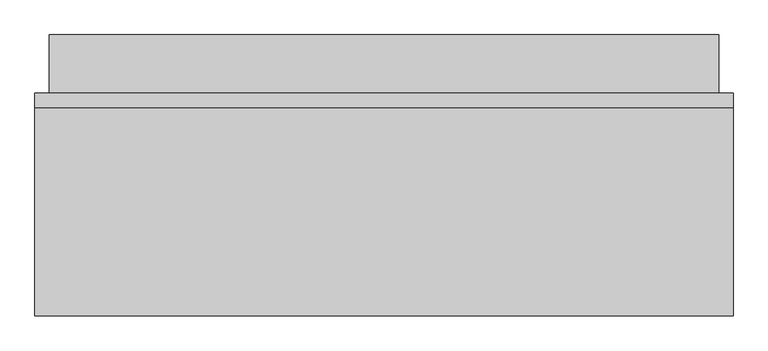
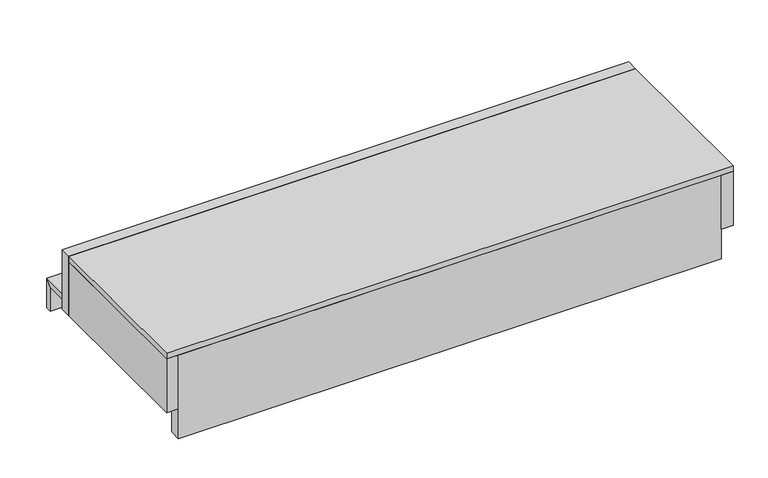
"""IFC4 building model written with IfcOpenShell, lengths in millimetres: proxy geometry, FOUNDATION^OPEN OFFICE 2_12x29x72 WIRE WALL RT-PARTS SOLID."""

from ifc_helpers import new_model, si_unit, frame, origin, origin_with_axes, place, context, project, spatial, polyline, outline, extrude, source, transform, mapped, element, save


def generic_models_7a6f5145(model_context):
    return source(origin(), model_context, "Body", "SweptSolid", [
        extrude(outline(polyline([(5143.5, 546.1), (3314.7, 546.1), (3314.7, 584.2), (5143.5, 584.2), (5143.5, 546.1)])), frame((0.0, 0.0, 101.6), z_axis=(0.0, 0.0, 1.0), x_axis=(1.0, 0.0, 0.0)), (0.0, 0.0, 1.0), 203.2),
        extrude(outline(polyline([(736.6, 101.6), (717.55, 82.55), (546.1, 82.55), (546.1, 101.6), (736.6, 101.6)])), frame((3352.8, 0.0, 0.0), z_axis=(1.0, 0.0, 0.0), x_axis=(0.0, 1.0, 0.0)), (0.0, 0.0, 1.0), 1752.6),
        extrude(outline(polyline([(5105.4, 0.0), (5105.4, 546.1), (5143.5, 546.1), (5143.5, 0.0), (5105.4, 0.0)])), frame((0.0, 0.0, 101.6), z_axis=(0.0, 0.0, 1.0), x_axis=(1.0, 0.0, 0.0)), (0.0, 0.0, 1.0), 184.15),
        extrude(outline(polyline([(5143.5, 0.0), (3314.7, 0.0), (3314.7, 546.1), (5143.5, 546.1), (5143.5, 0.0)])), frame((0.0, 0.0, 285.75), z_axis=(0.0, 0.0, 1.0), x_axis=(1.0, 0.0, 0.0)), (0.0, 0.0, 1.0), 19.05),
        extrude(outline(polyline([(717.55, 82.55), (736.6, 101.6), (736.6, 0.0), (717.55, 0.0), (717.55, 82.55)])), frame((3352.8, 0.0, 0.0), z_axis=(1.0, 0.0, 0.0), x_axis=(0.0, 1.0, 0.0)), (0.0, 0.0, 1.0), 1752.6),
        extrude(outline(polyline([(5105.4, 38.1), (5105.4, 0.0), (3352.8, 0.0), (3352.8, 38.1), (5105.4, 38.1)])), origin_with_axes(), (0.0, 0.0, 1.0), 285.75),
        extrude(outline(polyline([(3717.13125, 373.85625), (3717.13125, 542.925), (4912.51875, 542.925), (4912.51875, 373.85625), (3717.13125, 373.85625)])), frame((0.0, 0.0, 285.75), z_axis=(0.0, 0.0, 1.0), x_axis=(1.0, 0.0, 0.0)), (0.0, 0.0, 1.0), 19.05),
        extrude(outline(polyline([(3352.8, 546.1), (3352.8, 0.0), (3314.7, 0.0), (3314.7, 546.1), (3352.8, 546.1)])), frame((0.0, 0.0, 101.6), z_axis=(0.0, 0.0, 1.0), x_axis=(1.0, 0.0, 0.0)), (0.0, 0.0, 1.0), 184.15),
    ])


if __name__ == "__main__":
    model = new_model("IFC4")
    model_context = context("Model", 3, world=origin())
    ifc_project = project(units=[si_unit("LENGTHUNIT", "METRE", prefix="MILLI")], contexts=[model_context])
    site = spatial("IfcSite", under=ifc_project)
    building = spatial("IfcBuilding", under=site)
    placement = place(None, origin())
    generic_models_shape = generic_models_7a6f5145(model_context)
    element("IfcBuildingElementProxy", 1, Name="FOUNDATION^OPEN OFFICE 2_12x29x72 WIRE WALL RT-PARTS SOLID", ObjectType="FOUNDATION^OPEN OFFICE 2_12x29x72 WIRE WALL RT-PARTS SOLID", at=placement, inside=building, context=model_context, shape_type="MappedRepresentation", body=[
        mapped(generic_models_shape, transform((0.0, 0.0, 0.0), x_axis=(1.0, 0.0, 0.0), y_axis=(0.0, 1.0, 0.0), z_axis=(0.0, 0.0, 1.0))),
    ])
    save(model, "model.ifc")
